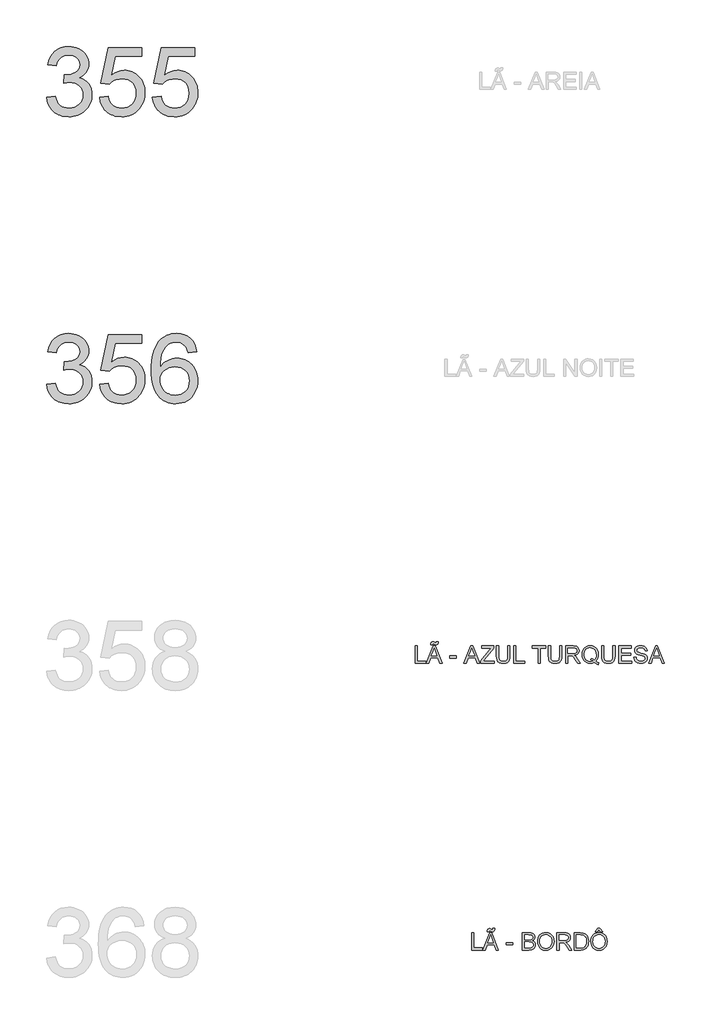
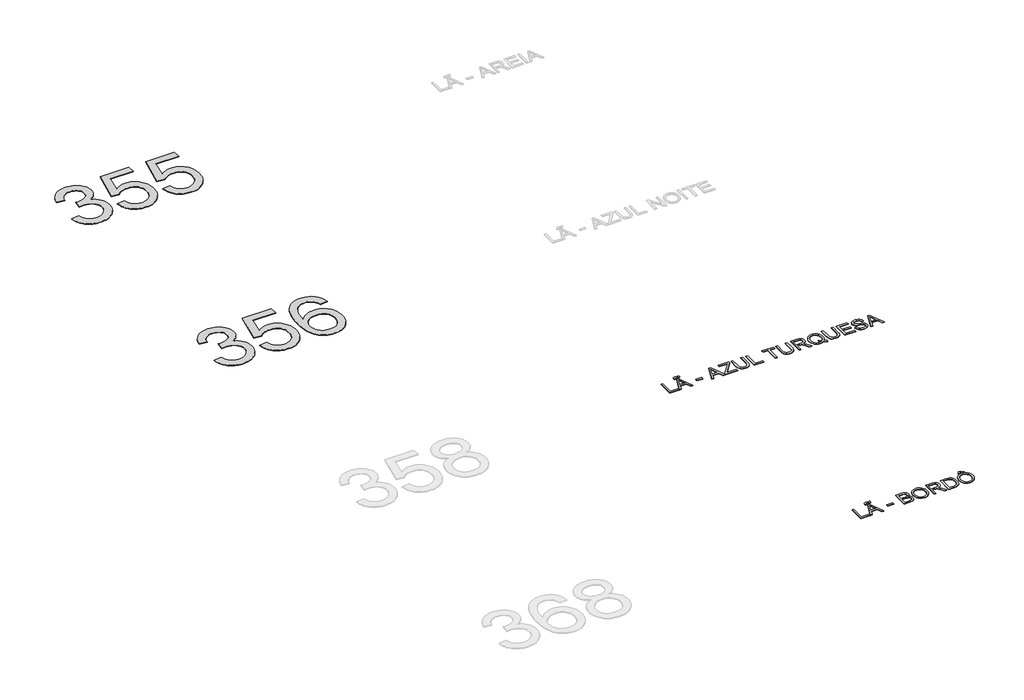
# One storey, part 26 of 67: 4 proxies.
"""IFC4 building model written with IfcOpenShell, lengths in millimetres."""

from ifc_helpers import new_model, si_unit, origin, origin_with_axes, place, context, project, spatial, polyline, outline, extrude, element, save

model = new_model("IFC4")

# Units and contexts
model_context = context("Model", 3, world=origin())
ifc_project = project(units=[si_unit("LENGTHUNIT", "METRE", prefix="MILLI")], contexts=[model_context])

# Site, building, storey
site = spatial("IfcSite", under=ifc_project)
building = spatial("IfcBuilding", under=site)
storey = spatial("IfcBuildingStorey", under=building, Name="Marelli - Linha COLAB - Planta Baixa", Elevation=0.0)

# Proxies
placement = place(None, origin())
element("IfcBuildingElementProxy", 1, Name="1200mm Arial", ObjectType="1200mm Arial", at=placement, inside=storey, context=model_context, shape_type="SweptSolid", body=[
    extrude(outline(polyline([(-181.1313792, -112668.6139517), (-30.446914, -112649.7783935), (-15.5384961, -112700.9691731), (3.287865, -112744.4712191), (26.0321693, -112780.2845313), (52.6944169, -112808.4091098), (83.8816131, -112829.6542951), (120.200763, -112844.8294274), (161.6518669, -112853.9345067), (208.2349245, -112856.9695332), (262.8286126, -112852.7940725), (311.5361887, -112840.2676906), (354.357653, -112819.3903874), (391.2930053, -112790.1621629), (421.0362646, -112754.7719149), (442.2814498, -112715.4085415), (455.028561, -112672.0720424), (459.277598, -112624.7624178), (455.0653492, -112579.7060705), (442.4286026, -112538.7148192), (421.3673584, -112501.7886639), (391.8816165, -112468.9276047), (355.9027574, -112441.9526574), (315.3621615, -112422.6848379), (270.2598289, -112411.1241462), (220.5957595, -112407.2705823), (172.9918294, -112411.3908606), (114.9400505, -112423.7516957), (131.7154695, -112273.0672304), (155.8485284, -112274.833064), (202.1832657, -112272.1291314), (246.12677, -112264.0173334), (287.6790413, -112250.49767), (326.8400797, -112231.5701414), (360.0598239, -112207.0324123), (383.7882126, -112176.6821477), (398.0252458, -112140.5193476), (402.7709235, -112098.5440119), (399.3312269, -112064.4689421), (389.0121369, -112033.465687), (371.8136536, -112005.5342465), (347.7357771, -111980.6746207), (318.231641, -111960.266367), (284.7543795, -111945.6890429), (247.3039924, -111936.9426485), (205.8804797, -111934.0271837), (164.5673317, -111936.9702397), (126.8594272, -111945.7994075), (92.7567662, -111960.5146873), (62.2593488, -111981.1160791), (36.121333, -112007.6035827), (15.096877, -112039.9771983), (-0.8140193, -112078.2369258), (-11.6113558, -112122.3827652), (-162.2958211, -112103.5472071), (-144.4351502, -112031.6078829), (-117.9292524, -111968.2402092), (-82.7781278, -111913.4441861), (-38.9817763, -111867.2198134), (12.0802447, -111830.5235844), (69.0283775, -111804.3119922), (131.8626223, -111788.5850369), (200.582979, -111783.3427185), (248.9134761, -111785.9270895), (295.3125927, -111793.6802025), (339.7803289, -111806.6020576), (382.3166846, -111824.6926547), (421.4409348, -111847.2622151), (455.6723544, -111873.6209601), (485.0109436, -111903.7688896), (509.4567021, -111937.7060036), (528.7061275, -111974.0803359), (542.4557171, -112011.5399201), (550.7054709, -112050.0847561), (553.4553888, -112089.7148441), (550.8434266, -112126.9812902), (543.0075401, -112162.5554791), (529.9477293, -112196.4374109), (511.6639941, -112228.6270854), (488.2666992, -112258.3703447), (459.8662092, -112284.9130307), (426.462524, -112308.2551433), (388.0556437, -112328.3966825), (438.2715361, -112344.1052437), (482.3805873, -112366.5092572), (520.3827974, -112395.608723), (552.2781664, -112431.4036412), (577.5148712, -112473.0110948), (595.541089, -112519.5481672), (606.3568197, -112571.0148583), (609.9620632, -112627.4111682), (608.1594414, -112666.3882656), (602.7515761, -112703.8570468), (593.7384672, -112739.8175118), (581.1201148, -112774.2696607), (564.8965188, -112807.2134933), (545.0676793, -112838.6490098), (521.6335962, -112868.5762101), (494.5942695, -112896.9950943), (464.8004265, -112922.9307749), (433.102794, -112945.4083648), (399.5013723, -112964.427864), (363.9961612, -112979.9892724), (326.5871609, -112992.09259), (287.2743712, -113000.7378169), (246.0577921, -113005.924953), (202.9374238, -113007.6539984), (126.7122744, -113001.7494924), (91.1380854, -112994.3688599), (57.2561537, -112984.0359743), (25.0664791, -112970.7508358), (-5.4309383, -112954.5134442), (-34.2360985, -112935.3237996), (-61.3490016, -112913.1819021), (-86.2040289, -112888.6947568), (-108.2355619, -112862.469369), (-127.4436005, -112834.5057389), (-143.8281449, -112804.8038663), (-157.3891949, -112773.3637513), (-168.1267507, -112740.1853938), (-181.1313792, -112668.6139517)])), origin_with_axes(), (0.0, 0.0, 1.0), 10.0),
    extrude(outline(polyline([(741.8109703, -112668.6139517), (892.4954355, -112649.7783935), (903.7526246, -112698.2192552), (920.1601616, -112740.2405761), (941.7180465, -112775.8423562), (968.4262793, -112805.0245955), (1000.2296778, -112827.7505057), (1037.0730596, -112843.9832988), (1078.9564248, -112853.7229746), (1125.8797733, -112856.9695332), (1183.2693645, -112852.4537817), (1233.889927, -112838.9065272), (1277.7414609, -112816.3277698), (1314.823966, -112784.7175093), (1344.3097079, -112745.6392444), (1365.3709521, -112700.6564734), (1378.0076987, -112649.7691965), (1382.2199475, -112592.9774135), (1378.2744131, -112539.3034304), (1366.4378099, -112491.5891356), (1346.7101379, -112449.8345291), (1319.0913971, -112414.039611), (1283.489617, -112385.3264213), (1239.8128272, -112364.817), (1188.0610275, -112352.5113473), (1128.234218, -112348.4094631), (1089.9468994, -112350.0465379), (1055.1360656, -112354.9577626), (1023.8017166, -112363.143137), (995.9438526, -112374.6026611), (948.6710162, -112404.6954083), (911.3309937, -112442.5872538), (760.6465284, -112423.7516957), (892.4954355, -111802.1782766), (1476.3977383, -111802.1782766), (1476.3977383, -111952.8627418), (1014.3379523, -111952.8627418), (949.8850268, -112284.8394543), (1003.0623692, -112246.7268796), (1057.5272986, -112219.503612), (1113.2798149, -112203.1696514), (1170.3199183, -112197.7249978), (1207.7588091, -112199.4126565), (1243.7031793, -112204.4756324), (1278.1530289, -112212.9139257), (1311.1083578, -112224.7275363), (1342.5691662, -112239.9164642), (1372.535454, -112258.4807093), (1401.0072211, -112280.4202718), (1427.9844677, -112305.7351516), (1452.5750798, -112333.7033803), (1473.8869436, -112363.6029895), (1491.9200592, -112395.4339791), (1506.6744265, -112429.1963492), (1518.1500455, -112464.8900998), (1526.3469162, -112502.5152308), (1531.2650386, -112542.0717424), (1532.9044127, -112583.5596344), (1526.9999067, -112661.6241938), (1519.6192742, -112698.6147284), (1509.2863886, -112734.2440996), (1496.0012501, -112768.5123075), (1479.7638585, -112801.4193519), (1460.5742139, -112832.965233), (1438.4323164, -112863.1499507), (1408.4315397, -112897.0180869), (1375.8188008, -112926.3704716), (1340.5940997, -112951.2071048), (1302.7574365, -112971.5279865), (1262.3088112, -112987.3331167), (1219.2482236, -112998.6224954), (1173.5756739, -113005.3961227), (1125.2911621, -113007.6539984), (1047.5301053, -113001.8506599), (1011.470772, -112994.5964869), (977.2922354, -112984.4406445), (944.9944955, -112971.383133), (914.5775523, -112955.4239522), (886.0414058, -112936.5631021), (859.386056, -112914.8005828), (835.0483627, -112890.6422321), (813.4651859, -112864.5938875), (794.6365255, -112836.6555493), (778.5623816, -112806.8272173), (765.2427541, -112775.1088915), (754.6776431, -112741.500572), (741.8109703, -112668.6139517)])), origin_with_axes(), (0.0, 0.0, 1.0), 10.0),
    extrude(outline(polyline([(1664.7533198, -112668.6139517), (1815.437785, -112649.7783935), (1826.6949741, -112698.2192552), (1843.1025111, -112740.2405761), (1864.660396, -112775.8423562), (1891.3686288, -112805.0245955), (1923.1720273, -112827.7505057), (1960.0154091, -112843.9832988), (2001.8987743, -112853.7229746), (2048.8221228, -112856.9695332), (2106.211714, -112852.4537817), (2156.8322765, -112838.9065272), (2200.6838104, -112816.3277698), (2237.7663155, -112784.7175093), (2267.2520574, -112745.6392444), (2288.3133016, -112700.6564734), (2300.9500482, -112649.7691965), (2305.162297, -112592.9774135), (2301.2167626, -112539.3034304), (2289.3801594, -112491.5891356), (2269.6524874, -112449.8345291), (2242.0337466, -112414.039611), (2206.4319665, -112385.3264213), (2162.7551767, -112364.817), (2111.003377, -112352.5113473), (2051.1765675, -112348.4094631), (2012.8892489, -112350.0465379), (1978.0784151, -112354.9577626), (1946.7440661, -112363.143137), (1918.8862021, -112374.6026611), (1871.6133657, -112404.6954083), (1834.2733432, -112442.5872538), (1683.5888779, -112423.7516957), (1815.437785, -111802.1782766), (2399.3400878, -111802.1782766), (2399.3400878, -111952.8627418), (1937.2803018, -111952.8627418), (1872.8273763, -112284.8394543), (1926.0047187, -112246.7268796), (1980.4696481, -112219.503612), (2036.2221644, -112203.1696514), (2093.2622678, -112197.7249978), (2130.7011586, -112199.4126565), (2166.6455288, -112204.4756324), (2201.0953784, -112212.9139257), (2234.0507073, -112224.7275363), (2265.5115157, -112239.9164642), (2295.4778035, -112258.4807093), (2323.9495706, -112280.4202718), (2350.9268172, -112305.7351516), (2375.5174293, -112333.7033803), (2396.8292931, -112363.6029895), (2414.8624087, -112395.4339791), (2429.616776, -112429.1963492), (2441.092395, -112464.8900998), (2449.2892657, -112502.5152308), (2454.2073881, -112542.0717424), (2455.8467622, -112583.5596344), (2449.9422562, -112661.6241938), (2442.5616237, -112698.6147284), (2432.2287381, -112734.2440996), (2418.9435996, -112768.5123075), (2402.706208, -112801.4193519), (2383.5165634, -112832.965233), (2361.3746659, -112863.1499507), (2331.3738892, -112897.0180869), (2298.7611503, -112926.3704716), (2263.5364492, -112951.2071048), (2225.699786, -112971.5279865), (2185.2511607, -112987.3331167), (2142.1905731, -112998.6224954), (2096.5180234, -113005.3961227), (2048.2335116, -113007.6539984), (1970.4724548, -113001.8506599), (1934.4131215, -112994.5964869), (1900.2345849, -112984.4406445), (1867.936845, -112971.383133), (1837.5199018, -112955.4239522), (1808.9837553, -112936.5631021), (1782.3284055, -112914.8005828), (1757.9907122, -112890.6422321), (1736.4075354, -112864.5938875), (1717.578875, -112836.6555493), (1701.5047311, -112806.8272173), (1688.1851036, -112775.1088915), (1677.6199926, -112741.500572), (1664.7533198, -112668.6139517)])), origin_with_axes(), (0.0, 0.0, 1.0), 10.0),
])
element("IfcBuildingElementProxy", 2, Name="1200mm Arial", ObjectType="1200mm Arial", at=placement, inside=storey, context=model_context, shape_type="SweptSolid", body=[
    extrude(outline(polyline([(-181.1313792, -117668.6139517), (-30.446914, -117649.7783935), (-15.5384961, -117700.9691731), (3.287865, -117744.4712191), (26.0321693, -117780.2845313), (52.6944169, -117808.4091098), (83.8816131, -117829.6542951), (120.200763, -117844.8294274), (161.6518669, -117853.9345067), (208.2349245, -117856.9695332), (262.8286126, -117852.7940725), (311.5361887, -117840.2676906), (354.357653, -117819.3903874), (391.2930053, -117790.1621629), (421.0362646, -117754.7719149), (442.2814498, -117715.4085415), (455.028561, -117672.0720424), (459.277598, -117624.7624178), (455.0653492, -117579.7060705), (442.4286026, -117538.7148192), (421.3673584, -117501.7886639), (391.8816165, -117468.9276047), (355.9027574, -117441.9526574), (315.3621615, -117422.6848379), (270.2598289, -117411.1241462), (220.5957595, -117407.2705823), (172.9918294, -117411.3908606), (114.9400505, -117423.7516957), (131.7154695, -117273.0672304), (155.8485284, -117274.833064), (202.1832657, -117272.1291314), (246.12677, -117264.0173334), (287.6790413, -117250.49767), (326.8400797, -117231.5701414), (360.0598239, -117207.0324123), (383.7882126, -117176.6821477), (398.0252458, -117140.5193476), (402.7709235, -117098.5440119), (399.3312269, -117064.4689421), (389.0121369, -117033.465687), (371.8136536, -117005.5342465), (347.7357771, -116980.6746207), (318.231641, -116960.266367), (284.7543795, -116945.6890429), (247.3039924, -116936.9426485), (205.8804797, -116934.0271837), (164.5673317, -116936.9702397), (126.8594272, -116945.7994075), (92.7567662, -116960.5146873), (62.2593488, -116981.1160791), (36.121333, -117007.6035827), (15.096877, -117039.9771983), (-0.8140193, -117078.2369258), (-11.6113558, -117122.3827652), (-162.2958211, -117103.5472071), (-144.4351502, -117031.6078829), (-117.9292524, -116968.2402092), (-82.7781278, -116913.4441861), (-38.9817763, -116867.2198134), (12.0802447, -116830.5235844), (69.0283775, -116804.3119922), (131.8626223, -116788.5850369), (200.582979, -116783.3427185), (248.9134761, -116785.9270895), (295.3125927, -116793.6802025), (339.7803289, -116806.6020576), (382.3166846, -116824.6926547), (421.4409348, -116847.2622151), (455.6723544, -116873.6209601), (485.0109436, -116903.7688896), (509.4567021, -116937.7060036), (528.7061275, -116974.0803359), (542.4557171, -117011.5399201), (550.7054709, -117050.0847561), (553.4553888, -117089.7148441), (550.8434266, -117126.9812902), (543.0075401, -117162.5554791), (529.9477293, -117196.4374109), (511.6639941, -117228.6270854), (488.2666992, -117258.3703447), (459.8662092, -117284.9130307), (426.462524, -117308.2551433), (388.0556437, -117328.3966825), (438.2715361, -117344.1052437), (482.3805873, -117366.5092572), (520.3827974, -117395.608723), (552.2781664, -117431.4036412), (577.5148712, -117473.0110948), (595.541089, -117519.5481672), (606.3568197, -117571.0148583), (609.9620632, -117627.4111682), (608.1594414, -117666.3882656), (602.7515761, -117703.8570468), (593.7384672, -117739.8175118), (581.1201148, -117774.2696607), (564.8965188, -117807.2134933), (545.0676793, -117838.6490098), (521.6335962, -117868.5762101), (494.5942695, -117896.9950943), (464.8004265, -117922.9307749), (433.102794, -117945.4083648), (399.5013723, -117964.427864), (363.9961612, -117979.9892724), (326.5871609, -117992.09259), (287.2743712, -118000.7378169), (246.0577921, -118005.924953), (202.9374238, -118007.6539984), (126.7122744, -118001.7494924), (91.1380854, -117994.3688599), (57.2561537, -117984.0359743), (25.0664791, -117970.7508358), (-5.4309383, -117954.5134442), (-34.2360985, -117935.3237996), (-61.3490016, -117913.1819021), (-86.2040289, -117888.6947568), (-108.2355619, -117862.469369), (-127.4436005, -117834.5057389), (-143.8281449, -117804.8038663), (-157.3891949, -117773.3637513), (-168.1267507, -117740.1853938), (-181.1313792, -117668.6139517)])), origin_with_axes(), (0.0, 0.0, 1.0), 10.0),
    extrude(outline(polyline([(741.8109703, -117668.6139517), (892.4954355, -117649.7783935), (903.7526246, -117698.2192552), (920.1601616, -117740.2405761), (941.7180465, -117775.8423562), (968.4262793, -117805.0245955), (1000.2296778, -117827.7505057), (1037.0730596, -117843.9832988), (1078.9564248, -117853.7229746), (1125.8797733, -117856.9695332), (1183.2693645, -117852.4537817), (1233.889927, -117838.9065272), (1277.7414609, -117816.3277698), (1314.823966, -117784.7175093), (1344.3097079, -117745.6392444), (1365.3709521, -117700.6564734), (1378.0076987, -117649.7691965), (1382.2199475, -117592.9774135), (1378.2744131, -117539.3034304), (1366.4378099, -117491.5891356), (1346.7101379, -117449.8345291), (1319.0913971, -117414.039611), (1283.489617, -117385.3264213), (1239.8128272, -117364.817), (1188.0610275, -117352.5113473), (1128.234218, -117348.4094631), (1089.9468994, -117350.0465379), (1055.1360656, -117354.9577626), (1023.8017166, -117363.143137), (995.9438526, -117374.6026611), (948.6710162, -117404.6954083), (911.3309937, -117442.5872538), (760.6465284, -117423.7516957), (892.4954355, -116802.1782766), (1476.3977383, -116802.1782766), (1476.3977383, -116952.8627418), (1014.3379523, -116952.8627418), (949.8850268, -117284.8394543), (1003.0623692, -117246.7268796), (1057.5272986, -117219.503612), (1113.2798149, -117203.1696514), (1170.3199183, -117197.7249978), (1207.7588091, -117199.4126565), (1243.7031793, -117204.4756324), (1278.1530289, -117212.9139257), (1311.1083578, -117224.7275363), (1342.5691662, -117239.9164642), (1372.535454, -117258.4807093), (1401.0072211, -117280.4202718), (1427.9844677, -117305.7351516), (1452.5750798, -117333.7033803), (1473.8869436, -117363.6029895), (1491.9200592, -117395.4339791), (1506.6744265, -117429.1963492), (1518.1500455, -117464.8900998), (1526.3469162, -117502.5152308), (1531.2650386, -117542.0717424), (1532.9044127, -117583.5596344), (1526.9999067, -117661.6241938), (1519.6192742, -117698.6147284), (1509.2863886, -117734.2440996), (1496.0012501, -117768.5123075), (1479.7638585, -117801.4193519), (1460.5742139, -117832.965233), (1438.4323164, -117863.1499507), (1408.4315397, -117897.0180869), (1375.8188008, -117926.3704716), (1340.5940997, -117951.2071048), (1302.7574365, -117971.5279865), (1262.3088112, -117987.3331167), (1219.2482236, -117998.6224954), (1173.5756739, -118005.3961227), (1125.2911621, -118007.6539984), (1047.5301053, -118001.8506599), (1011.470772, -117994.5964869), (977.2922354, -117984.4406445), (944.9944955, -117971.383133), (914.5775523, -117955.4239522), (886.0414058, -117936.5631021), (859.386056, -117914.8005828), (835.0483627, -117890.6422321), (813.4651859, -117864.5938875), (794.6365255, -117836.6555493), (778.5623816, -117806.8272173), (765.2427541, -117775.1088915), (754.6776431, -117741.500572), (741.8109703, -117668.6139517)])), origin_with_axes(), (0.0, 0.0, 1.0), 10.0),
    extrude(outline(polyline([(2437.0112041, -117103.5472071), (2286.3267388, -117122.3827652), (2275.2534908, -117082.0812927), (2262.0465272, -117047.7027202), (2246.705848, -117019.2470479), (2229.2314532, -116996.7142757), (2196.8394435, -116969.2886729), (2160.8789785, -116949.6989567), (2121.3500581, -116937.9451269), (2078.2526824, -116934.0271837), (2042.7152816, -116936.3080521), (2008.2079505, -116943.1506572), (1974.7306889, -116954.554999), (1942.283497, -116970.5210776), (1912.6781934, -116996.6315022), (1885.6664579, -117028.1681863), (1861.2482905, -117065.1311297), (1839.4236911, -117107.5203326), (1821.3514881, -117158.1316981), (1808.1905097, -117219.7611293), (1799.940756, -117292.4086263), (1796.6022269, -117376.0741891), (1825.3246136, -117338.2099347), (1857.0452387, -117305.5512106), (1891.764102, -117278.0980167), (1929.4812035, -117255.8503531), (1969.1848679, -117238.6610669), (2009.8634195, -117226.3830053), (2051.5168584, -117219.0161683), (2094.1451846, -117216.560556), (2131.0437487, -117218.2390176), (2166.5443612, -117223.2744024), (2200.6470222, -117231.6667104), (2233.3517315, -117243.4159416), (2264.6584893, -117258.5220961), (2294.5672955, -117276.9851737), (2323.0781502, -117298.8051745), (2350.1910532, -117323.9820986), (2374.95411, -117351.81697), (2396.4154259, -117381.6108131), (2414.5750009, -117413.3636278), (2429.432835, -117447.0754142), (2440.9889281, -117482.7461721), (2449.2432804, -117520.3759017), (2454.1958918, -117559.9646029), (2455.8467622, -117601.5122757), (2452.7381594, -117656.4462547), (2443.4123508, -117709.4120649), (2427.8693365, -117760.4097065), (2406.1091165, -117809.4391794), (2378.9042429, -117854.6702707), (2347.0272681, -117894.2727675), (2310.4781918, -117928.2466698), (2269.2570143, -117956.5919775), (2224.2466522, -117978.9316116), (2176.3300223, -117994.8884932), (2125.5071247, -118004.4626221), (2071.7779593, -118007.6539984), (2025.776615, -118005.5386769), (1981.9503731, -117999.1927125), (1940.2992334, -117988.6161052), (1900.8231961, -117973.8088549), (1863.5222611, -117954.7709616), (1828.3964283, -117931.5024254), (1795.4456978, -117904.0032463), (1764.6700697, -117872.2734242), (1736.8374975, -117835.6875598), (1712.7159349, -117793.6202536), (1692.305382, -117746.0715057), (1675.6058387, -117693.0413161), (1662.617305, -117634.5296848), (1653.3397809, -117570.5366117), (1647.7732665, -117501.062097), (1645.9177616, -117426.1061404), (1647.9779008, -117342.1784618), (1654.1583183, -117264.1828803), (1664.4590142, -117192.1193959), (1678.8799884, -117125.9880088), (1697.421241, -117065.7887188), (1720.0827719, -117011.521526), (1746.8645811, -116963.1864303), (1777.7666687, -116920.7834319), (1807.781241, -116888.5707647), (1840.2882138, -116860.6531198), (1875.2875871, -116837.0304971), (1912.7793609, -116817.7028968), (1952.7635353, -116802.6703188), (1995.2401102, -116791.9327631), (2040.2090855, -116785.4902296), (2087.6704615, -116783.3427185), (2157.0713998, -116788.6586133), (2219.8872505, -116804.6062978), (2276.1180135, -116831.1857719), (2325.7636887, -116868.3970358), (2367.481507, -116914.9892904), (2399.928699, -116969.7117372), (2423.1052647, -117032.5643761), (2437.0112041, -117103.5472071)]), holes=[polyline([(1796.6022269, -117599.157831), (1798.7819277, -117632.9202011), (1805.3210302, -117665.9284131), (1816.2195343, -117698.182467), (1831.47744, -117729.6823629), (1850.3497864, -117758.9473756), (1872.0916123, -117784.4967801), (1896.7029178, -117806.3305766), (1924.1837028, -117824.4487648), (1954.3592234, -117838.676601), (1987.0547358, -117848.8393411), (2022.2702398, -117854.9369852), (2060.0057354, -117856.9695332), (2112.3829345, -117852.7572843), (2159.4442387, -117840.1205378), (2201.1896481, -117819.0592936), (2237.6191627, -117789.5735517), (2267.1692839, -117752.8589286), (2288.2765134, -117710.1110407), (2300.9408511, -117661.3298882), (2305.162297, -117606.5154709), (2300.9960334, -117553.8439662), (2288.4972426, -117507.0769676), (2267.6659246, -117466.214475), (2238.5020795, -117431.2564884), (2201.9622003, -117403.2514715), (2159.0027803, -117383.247888), (2109.6238195, -117371.2457379), (2053.8253179, -117367.2450212), (2002.1470946, -117371.2457379), (1954.5339674, -117383.247888), (1910.9859362, -117403.2514715), (1871.5030011, -117431.2564884), (1838.7339124, -117465.7546225), (1815.3274204, -117505.2375576), (1801.2835253, -117549.7052938), (1796.6022269, -117599.157831)])]), origin_with_axes(), (0.0, 0.0, 1.0), 10.0),
])
element("IfcBuildingElementProxy", 3, Name="300mm Arial", ObjectType="300mm Arial", at=placement, inside=storey, context=model_context, shape_type="SweptSolid", body=[
    extrude(outline(polyline([(6242.8873613, -122530.5663201), (6242.8873613, -122229.1973896), (6280.5584776, -122229.1973896), (6280.5584776, -122492.8952038), (6431.2429428, -122492.8952038), (6431.2429428, -122530.5663201), (6242.8873613, -122530.5663201)])), origin_with_axes(), (0.0, 0.0, 1.0), 10.0),
    extrude(outline(polyline([(6516.0029545, -122210.3618315), (6518.85404, -122187.2036599), (6527.701602, -122169.2326244), (6541.0373243, -122157.6995239), (6557.6471964, -122153.855157), (6571.5531358, -122156.8901835), (6587.81352, -122165.9952628), (6603.0438346, -122172.6907152), (6611.0268739, -122168.9015306), (6614.8896348, -122153.855157), (6647.8518616, -122153.855157), (6644.5685148, -122178.5768271), (6635.8956968, -122196.2351629), (6622.9922358, -122206.8301643), (6607.0169601, -122210.3618315), (6593.0190502, -122207.4923519), (6577.2185185, -122198.8839132), (6561.3260163, -122191.5262733), (6552.3496956, -122196.3087393), (6548.9651813, -122210.3618315), (6516.0029545, -122210.3618315)])), origin_with_axes(), (0.0, 0.0, 1.0), 10.0),
    extrude(outline(polyline([(6438.5270063, -122530.5663201), (6558.8244188, -122229.1973896), (6590.9037287, -122229.1973896), (6711.2011412, -122530.5663201), (6671.3963093, -122530.5663201), (6636.8889781, -122436.3885293), (6512.765593, -122436.3885293), (6478.3318382, -122530.5663201), (6438.5270063, -122530.5663201)]), holes=[polyline([(6526.597956, -122398.717413), (6623.1301915, -122398.717413), (6595.9805003, -122324.6259792), (6574.8640738, -122266.8685059), (6556.102092, -122318.1512561), (6526.597956, -122398.717413)])]), origin_with_axes(), (0.0, 0.0, 1.0), 10.0),
    extrude(outline(polyline([(6845.6252222, -122441.0974188), (6845.6252222, -122403.4263025), (6963.3474607, -122403.4263025), (6963.3474607, -122441.0974188), (6845.6252222, -122441.0974188)])), origin_with_axes(), (0.0, 0.0, 1.0), 10.0),
    extrude(outline(polyline([(7093.0626522, -122530.5663201), (7213.3600646, -122229.1973896), (7245.4393746, -122229.1973896), (7365.736787, -122530.5663201), (7325.9319551, -122530.5663201), (7291.424624, -122436.3885293), (7167.3012388, -122436.3885293), (7132.867484, -122530.5663201), (7093.0626522, -122530.5663201)]), holes=[polyline([(7181.1336018, -122398.717413), (7277.6658373, -122398.717413), (7250.5161461, -122324.6259792), (7229.3997196, -122266.8685059), (7210.6377378, -122318.1512561), (7181.1336018, -122398.717413)])]), origin_with_axes(), (0.0, 0.0, 1.0), 10.0),
    extrude(outline(polyline([(7382.4386296, -122530.5663201), (7382.4386296, -122491.4972522), (7536.5811855, -122302.7737887), (7565.8645924, -122266.8685059), (7401.2741877, -122266.8685059), (7401.2741877, -122229.1973896), (7613.1742169, -122229.1973896), (7613.1742169, -122266.8685059), (7444.4635339, -122473.397458), (7428.5710318, -122492.8952038), (7617.8831065, -122492.8952038), (7617.8831065, -122530.5663201), (7382.4386296, -122530.5663201)])), origin_with_axes(), (0.0, 0.0, 1.0), 10.0),
    extrude(outline(polyline([(7858.0364729, -122229.1973896), (7895.7075892, -122229.1973896), (7895.7075892, -122403.0584205), (7893.1508094, -122443.7737604), (7885.4804698, -122475.1265034), (7871.1514661, -122499.3147446), (7848.6186939, -122518.5365788), (7817.8269709, -122531.0905519), (7778.7211148, -122535.2752096), (7740.4705843, -122531.6331779), (7709.8903935, -122520.7070826), (7686.9713452, -122502.8740029), (7671.7042424, -122478.5110178), (7663.1233948, -122445.8338995), (7660.2631123, -122403.0584205), (7660.2631123, -122229.1973896), (7697.9342286, -122229.1973896), (7697.9342286, -122401.7340454), (7699.7920327, -122435.588386), (7705.3654449, -122459.1604248), (7715.4638057, -122475.4851883), (7730.8964554, -122487.597703), (7751.0196005, -122495.1024957), (7775.1894476, -122497.6040933), (7813.5043574, -122492.6560805), (7827.8471567, -122486.4710644), (7838.9801856, -122477.812042), (7847.3173113, -122465.6351479), (7853.2724011, -122448.8965171), (7858.0364729, -122401.7340454), (7858.0364729, -122229.1973896)])), origin_with_axes(), (0.0, 0.0, 1.0), 10.0),
    extrude(outline(polyline([(7961.6320428, -122530.5663201), (7961.6320428, -122229.1973896), (7999.3031591, -122229.1973896), (7999.3031591, -122492.8952038), (8149.9876243, -122492.8952038), (8149.9876243, -122530.5663201), (7961.6320428, -122530.5663201)])), origin_with_axes(), (0.0, 0.0, 1.0), 10.0),
    extrude(outline(polyline([(8385.4321012, -122530.5663201), (8385.4321012, -122266.8685059), (8286.5454209, -122266.8685059), (8286.5454209, -122229.1973896), (8521.9898978, -122229.1973896), (8521.9898978, -122266.8685059), (8423.1032175, -122266.8685059), (8423.1032175, -122530.5663201), (8385.4321012, -122530.5663201)])), origin_with_axes(), (0.0, 0.0, 1.0), 10.0),
    extrude(outline(polyline([(8762.1432643, -122229.1973896), (8799.8143806, -122229.1973896), (8799.8143806, -122403.0584205), (8797.2576007, -122443.7737604), (8789.5872611, -122475.1265034), (8775.2582574, -122499.3147446), (8752.7254852, -122518.5365788), (8721.9337622, -122531.0905519), (8682.8279061, -122535.2752096), (8644.5773757, -122531.6331779), (8613.9971848, -122520.7070826), (8591.0781365, -122502.8740029), (8575.8110337, -122478.5110178), (8567.2301862, -122445.8338995), (8564.3699037, -122403.0584205), (8564.3699037, -122229.1973896), (8602.04102, -122229.1973896), (8602.04102, -122401.7340454), (8603.898824, -122435.588386), (8609.4722363, -122459.1604248), (8619.570597, -122475.4851883), (8635.0032467, -122487.597703), (8655.1263919, -122495.1024957), (8679.296239, -122497.6040933), (8717.6111488, -122492.6560805), (8731.953948, -122486.4710644), (8743.0869769, -122477.812042), (8751.4241026, -122465.6351479), (8757.3791924, -122448.8965171), (8762.1432643, -122401.7340454), (8762.1432643, -122229.1973896)])), origin_with_axes(), (0.0, 0.0, 1.0), 10.0),
    extrude(outline(polyline([(8865.7388341, -122530.5663201), (8865.7388341, -122229.1973896), (8995.6011784, -122229.1973896), (9030.5039827, -122231.2299376), (9055.8970374, -122237.3275817), (9074.4566841, -122248.5847708), (9088.8592642, -122266.0959537), (9098.1022993, -122287.8101885), (9101.183311, -122311.6765329), (9096.0789483, -122341.3646099), (9080.7658603, -122365.9759154), (9069.1660811, -122376.0052983), (9054.7841944, -122384.0205273), (9017.6740981, -122394.0085235), (9039.0848302, -122410.1217548), (9069.6190358, -122448.8965171), (9119.8717164, -122530.5663201), (9076.093759, -122530.5663201), (9036.8775383, -122468.0999573), (9008.5506246, -122426.750021), (8988.6482087, -122407.2154871), (8970.7323555, -122400.0417882), (8948.880165, -122398.717413), (8903.4099504, -122398.717413), (8903.4099504, -122530.5663201), (8865.7388341, -122530.5663201)]), holes=[polyline([(8903.4099504, -122361.0462967), (8987.7285037, -122361.0462967), (9011.944336, -122359.7127245), (9030.733909, -122355.7120078), (9044.8789717, -122348.7774322), (9055.1612734, -122338.6422832), (9061.4244644, -122326.3826157), (9063.5121947, -122313.0744845), (9059.5298721, -122294.6987789), (9047.5829043, -122279.8915286), (9027.0274979, -122270.1242616), (8997.2198592, -122266.8685059), (8903.4099504, -122266.8685059), (8903.4099504, -122361.0462967)])]), origin_with_axes(), (0.0, 0.0, 1.0), 10.0),
    extrude(outline(polyline([(9393.5023444, -122494.4403081), (9417.8377384, -122513.036743), (9440.2233578, -122525.8574305), (9430.0698147, -122553.4485802), (9399.0021802, -122539.0460001), (9368.0449103, -122518.205485), (9333.1880913, -122531.0077785), (9294.8363933, -122535.2752096), (9256.3007543, -122530.3547879), (9221.4807235, -122515.5935229), (9192.3168783, -122491.9203165), (9170.7497963, -122460.2640708), (9157.423271, -122422.3630282), (9152.9810959, -122379.9554312), (9157.414074, -122337.511046), (9170.7130081, -122299.0581805), (9192.1973166, -122266.9512794), (9221.1864179, -122243.5447874), (9255.87769, -122229.2525719), (9294.4685113, -122224.4885001), (9333.3628352, -122229.3629365), (9368.2288513, -122243.9862458), (9397.1719673, -122267.3835407), (9418.2975909, -122298.5799339), (9431.2102489, -122335.9199564), (9435.5144682, -122377.7481393), (9432.9025061, -122412.5313819), (9425.0666196, -122443.5990164), (9411.9516265, -122470.9142546), (9393.5023444, -122494.4403081)]), holes=[polyline([(9305.2106656, -122444.3347804), (9336.8853053, -122456.3093393), (9362.453104, -122472.9559996), (9377.9363375, -122455.4816049), (9388.99579, -122434.1076609), (9395.6314614, -122408.8341679), (9397.8433519, -122379.6611256), (9394.716355, -122346.5057608), (9385.3353641, -122317.8201623), (9369.9303056, -122294.3308969), (9348.7311056, -122276.7645316), (9323.172504, -122265.8108452), (9294.6892405, -122262.1596164), (9273.204932, -122264.0059242), (9253.6336098, -122269.5448474), (9235.9752741, -122278.7763863), (9220.2299247, -122291.7005406), (9207.2896755, -122308.2897193), (9198.0466404, -122328.5163313), (9192.5008193, -122352.3803764), (9190.6522123, -122379.8818548), (9192.4801259, -122406.6659634), (9197.9638669, -122430.1437324), (9207.1034352, -122450.3151621), (9219.8988309, -122467.1802523), (9235.5361149, -122480.4906827), (9253.2013485, -122489.9981331), (9272.8945315, -122495.7026032), (9294.6156641, -122497.6040933), (9315.5297555, -122495.6727128), (9335.15626, -122489.8785714), (9315.8608493, -122479.853787), (9295.4985809, -122473.1767288), (9305.2106656, -122444.3347804)])]), origin_with_axes(), (0.0, 0.0, 1.0), 10.0),
    extrude(outline(polyline([(9689.7945033, -122229.1973896), (9727.4656196, -122229.1973896), (9727.4656196, -122403.0584205), (9724.9088398, -122443.7737604), (9717.2385002, -122475.1265034), (9702.9094964, -122499.3147446), (9680.3767242, -122518.5365788), (9649.5850012, -122531.0905519), (9610.4791452, -122535.2752096), (9572.2286147, -122531.6331779), (9541.6484239, -122520.7070826), (9518.7293756, -122502.8740029), (9503.4622728, -122478.5110178), (9494.8814252, -122445.8338995), (9492.0211427, -122403.0584205), (9492.0211427, -122229.1973896), (9529.692259, -122229.1973896), (9529.692259, -122401.7340454), (9531.5500631, -122435.588386), (9537.1234753, -122459.1604248), (9547.2218361, -122475.4851883), (9562.6544858, -122487.597703), (9582.7776309, -122495.1024957), (9606.947478, -122497.6040933), (9645.2623878, -122492.6560805), (9659.6051871, -122486.4710644), (9670.738216, -122477.812042), (9679.0753417, -122465.6351479), (9685.0304315, -122448.8965171), (9689.7945033, -122401.7340454), (9689.7945033, -122229.1973896)])), origin_with_axes(), (0.0, 0.0, 1.0), 10.0),
    extrude(outline(polyline([(9793.3900732, -122530.5663201), (9793.3900732, -122229.1973896), (10009.9989919, -122229.1973896), (10009.9989919, -122266.8685059), (9831.0611895, -122266.8685059), (9831.0611895, -122356.3374072), (10000.5812128, -122356.3374072), (10000.5812128, -122394.0085235), (9831.0611895, -122394.0085235), (9831.0611895, -122492.8952038), (10014.7078815, -122492.8952038), (10014.7078815, -122530.5663201), (9793.3900732, -122530.5663201)])), origin_with_axes(), (0.0, 0.0, 1.0), 10.0),
    extrude(outline(polyline([(10057.0878873, -122426.9707502), (10094.7590036, -122426.9707502), (10099.081617, -122447.8756446), (10106.8991094, -122464.6786547), (10119.0943976, -122478.0143771), (10136.5503983, -122488.517408), (10157.887554, -122495.332422), (10181.7263073, -122497.6040933), (10202.7139751, -122495.884245), (10221.0896807, -122490.7247), (10235.9797045, -122482.5577197), (10246.5103266, -122471.8155654), (10252.7735176, -122459.4823216), (10254.8612479, -122446.5420724), (10253.2977494, -122433.932917), (10248.607254, -122423.0344129), (10239.0791103, -122413.7361954), (10223.0026671, -122405.9279001), (10168.1514616, -122391.5437141), (10132.1450114, -122382.0247675), (10109.1064014, -122372.9656733), (10090.3536167, -122360.2921386), (10077.0638796, -122344.9330653), (10069.1452197, -122327.2195472), (10066.5056664, -122307.4826782), (10069.7706191, -122285.4189555), (10079.5654772, -122264.845155), (10095.6327233, -122247.4075484), (10117.7148401, -122234.7524077), (10144.2207379, -122227.054477), (10173.559327, -122224.4885001), (10205.3443314, -122227.1740386), (10233.1562102, -122235.2306543), (10256.0016821, -122248.4928003), (10272.8874657, -122266.7949295), (10283.5744376, -122288.9966079), (10287.8234747, -122313.9574013), (10250.1523584, -122313.9574013), (10243.2361769, -122291.4798114), (10228.8152026, -122275.2562154), (10206.2824304, -122265.4337661), (10175.0308549, -122262.1596164), (10143.0435155, -122265.3969779), (10121.0993545, -122275.1090626), (10108.4074256, -122289.4012781), (10104.1767827, -122306.3790322), (10107.1750209, -122320.8551887), (10116.1697357, -122332.4986539), (10137.433315, -122342.9097143), (10177.6796053, -122353.541504), (10219.2134826, -122363.6398648), (10244.3398228, -122372.4506385), (10265.8149343, -122386.1174547), (10280.7969286, -122402.9848441), (10289.5985053, -122422.868866), (10292.5323642, -122445.5855792), (10289.1570469, -122468.8081301), (10279.031095, -122490.6511236), (10262.5683757, -122509.4498935), (10240.1827563, -122523.539774), (10213.2629913, -122532.3413507), (10183.1978352, -122535.2752096), (10146.2900741, -122532.1114244), (10115.9122183, -122522.620069), (10091.7147801, -122506.764355), (10073.3482715, -122484.5074943), (10061.5576535, -122457.3945912), (10057.0878873, -122426.9707502)])), origin_with_axes(), (0.0, 0.0, 1.0), 10.0),
    extrude(outline(polyline([(10313.9430963, -122530.5663201), (10434.2405088, -122229.1973896), (10466.3198187, -122229.1973896), (10586.6172312, -122530.5663201), (10546.8123993, -122530.5663201), (10512.3050681, -122436.3885293), (10388.181683, -122436.3885293), (10353.7479282, -122530.5663201), (10313.9430963, -122530.5663201)]), holes=[polyline([(10402.014046, -122398.717413), (10498.5462815, -122398.717413), (10471.3965903, -122324.6259792), (10450.2801637, -122266.8685059), (10431.518182, -122318.1512561), (10402.014046, -122398.717413)])]), origin_with_axes(), (0.0, 0.0, 1.0), 10.0),
])
element("IfcBuildingElementProxy", 4, Name="300mm Arial", ObjectType="300mm Arial", at=placement, inside=storey, context=model_context, shape_type="SweptSolid", body=[
    extrude(outline(polyline([(7227.0452748, -127530.5663201), (7227.0452748, -127229.1973896), (7264.7163911, -127229.1973896), (7264.7163911, -127492.8952038), (7415.4008563, -127492.8952038), (7415.4008563, -127530.5663201), (7227.0452748, -127530.5663201)])), origin_with_axes(), (0.0, 0.0, 1.0), 10.0),
    extrude(outline(polyline([(7500.160868, -127210.3618315), (7503.0119535, -127187.2036599), (7511.8595155, -127169.2326244), (7525.1952378, -127157.6995239), (7541.8051099, -127153.855157), (7555.7110493, -127156.8901835), (7571.9714335, -127165.9952628), (7587.2017481, -127172.6907152), (7595.1847874, -127168.9015306), (7599.0475483, -127153.855157), (7632.0097751, -127153.855157), (7628.7264283, -127178.5768271), (7620.0536102, -127196.2351629), (7607.1501493, -127206.8301643), (7591.1748736, -127210.3618315), (7577.1769637, -127207.4923519), (7561.376432, -127198.8839132), (7545.4839298, -127191.5262733), (7536.5076091, -127196.3087393), (7533.1230948, -127210.3618315), (7500.160868, -127210.3618315)])), origin_with_axes(), (0.0, 0.0, 1.0), 10.0),
    extrude(outline(polyline([(7422.6849198, -127530.5663201), (7542.9823323, -127229.1973896), (7575.0616422, -127229.1973896), (7695.3590547, -127530.5663201), (7655.5542228, -127530.5663201), (7621.0468916, -127436.3885293), (7496.9235065, -127436.3885293), (7462.4897517, -127530.5663201), (7422.6849198, -127530.5663201)]), holes=[polyline([(7510.7558695, -127398.717413), (7607.288105, -127398.717413), (7580.1384138, -127324.6259792), (7559.0219872, -127266.8685059), (7540.2600055, -127318.1512561), (7510.7558695, -127398.717413)])]), origin_with_axes(), (0.0, 0.0, 1.0), 10.0),
    extrude(outline(polyline([(7829.7831357, -127441.0974188), (7829.7831357, -127403.4263025), (7947.5053742, -127403.4263025), (7947.5053742, -127441.0974188), (7829.7831357, -127441.0974188)])), origin_with_axes(), (0.0, 0.0, 1.0), 10.0),
    extrude(outline(polyline([(8112.316508, -127530.5663201), (8112.316508, -127229.1973896), (8227.3164197, -127229.1973896), (8258.9450742, -127231.4138786), (8283.6391531, -127238.0633457), (8302.5666818, -127249.3113377), (8316.8956855, -127265.3234015), (8325.9179914, -127284.1589597), (8328.9254268, -127303.8774346), (8326.396238, -127322.0232141), (8318.8086719, -127339.0837416), (8306.107546, -127354.0105535), (8288.2376781, -127365.7551862), (8309.5840309, -127376.9020107), (8325.3569714, -127393.8613707), (8335.0966472, -127415.5112261), (8338.3432058, -127440.7295368), (8336.1267168, -127461.7447958), (8329.4772497, -127481.2333445), (8319.5536329, -127497.8064284), (8307.5146946, -127510.0752929), (8292.7718237, -127518.9596431), (8274.7364089, -127525.3791839), (8226.4335029, -127530.5663201), (8112.316508, -127530.5663201)]), holes=[polyline([(8149.9876243, -127351.6285176), (8218.7815574, -127351.6285176), (8258.9542713, -127348.3911561), (8273.0165605, -127342.8085468), (8283.1241184, -127334.4484284), (8289.2217624, -127323.4395597), (8291.2543104, -127309.9106994), (8289.3597182, -127296.7773121), (8283.6759413, -127285.3361821), (8274.4604974, -127276.4058467), (8261.9709036, -127270.8048433), (8213.5576331, -127266.8685059), (8149.9876243, -127266.8685059), (8149.9876243, -127351.6285176)]), polyline([(8149.9876243, -127492.8952038), (8227.2428433, -127492.8952038), (8255.2018749, -127491.4236758), (8278.8566872, -127483.2199073), (8294.5284602, -127466.4812765), (8299.1361822, -127454.6538704), (8300.6720895, -127441.0974188), (8298.8694677, -127425.3520694), (8293.4616024, -127411.814012), (8284.0162322, -127401.2282076), (8270.1010957, -127394.3396173), (8250.3918178, -127390.5596298), (8223.5640233, -127389.2996339), (8149.9876243, -127389.2996339), (8149.9876243, -127492.8952038)])]), origin_with_axes(), (0.0, 0.0, 1.0), 10.0),
    extrude(outline(polyline([(8376.0143221, -127383.8549804), (8378.5251168, -127348.5061192), (8386.0575006, -127317.213157), (8398.6114737, -127289.9760937), (8416.187036, -127266.7949295), (8437.7311254, -127248.2858666), (8462.1906795, -127235.0651074), (8489.5656985, -127227.1326519), (8519.8561823, -127224.4885001), (8559.3851026, -127229.454907), (8594.8305329, -127244.3541278), (8624.2610925, -127268.1376988), (8645.745401, -127299.7571563), (8658.8787882, -127337.68579), (8663.256584, -127380.3968896), (8658.648862, -127423.6782064), (8644.825696, -127462.140269), (8622.5504412, -127493.8149088), (8592.5864527, -127516.733957), (8557.4445251, -127530.6398965), (8519.6354531, -127535.2752096), (8479.4995274, -127530.1524528), (8443.851762, -127514.7841825), (8414.4947788, -127490.5591531), (8393.2311995, -127458.8661192), (8380.3185415, -127422.3998164), (8376.0143221, -127383.8549804)]), holes=[polyline([(8413.6854384, -127384.2228624), (8415.5685344, -127409.1974513), (8421.2178223, -127431.3669401), (8430.6333021, -127450.7313286), (8443.8149738, -127467.2906169), (8459.838534, -127480.5527628), (8477.7796791, -127490.0257242), (8497.638409, -127495.709501), (8519.4147239, -127497.6040933), (8541.5635192, -127495.6911069), (8561.656774, -127489.9521478), (8579.694488, -127480.3872159), (8595.6766615, -127466.9963113), (8608.7617642, -127450.0875351), (8618.1082661, -127429.9689885), (8623.7161673, -127406.6406715), (8625.5854677, -127380.102584), (8622.3848943, -127346.7540812), (8612.7831742, -127317.9305269), (8597.0286278, -127294.358488), (8575.3695753, -127276.7645316), (8549.2407566, -127265.8108452), (8520.0769114, -127262.1596164), (8499.0570539, -127263.9185522), (8479.5547097, -127269.1953595), (8461.5698786, -127277.9900385), (8445.1025608, -127290.302589), (8431.3575698, -127306.7262208), (8421.539719, -127327.8541437), (8415.6490086, -127353.6863575), (8413.6854384, -127384.2228624)])]), origin_with_axes(), (0.0, 0.0, 1.0), 10.0),
    extrude(outline(polyline([(8715.0543689, -127530.5663201), (8715.0543689, -127229.1973896), (8844.9167132, -127229.1973896), (8879.8195175, -127231.2299376), (8905.2125722, -127237.3275817), (8923.7722189, -127248.5847708), (8938.174799, -127266.0959537), (8947.4178341, -127287.8101885), (8950.4988458, -127311.6765329), (8945.3944831, -127341.3646099), (8930.0813951, -127365.9759154), (8918.4816159, -127376.0052983), (8904.0997292, -127384.0205273), (8866.9896329, -127394.0085235), (8888.400365, -127410.1217548), (8918.9345706, -127448.8965171), (8969.1872512, -127530.5663201), (8925.4092937, -127530.5663201), (8886.193073, -127468.0999573), (8857.8661594, -127426.750021), (8837.9637435, -127407.2154871), (8820.0478903, -127400.0417882), (8798.1956998, -127398.717413), (8752.7254852, -127398.717413), (8752.7254852, -127530.5663201), (8715.0543689, -127530.5663201)]), holes=[polyline([(8752.7254852, -127361.0462967), (8837.0440385, -127361.0462967), (8861.2598708, -127359.7127245), (8880.0494437, -127355.7120078), (8894.1945064, -127348.7774322), (8904.4768082, -127338.6422832), (8910.7399992, -127326.3826157), (8912.8277295, -127313.0744845), (8908.8454069, -127294.6987789), (8896.8984391, -127279.8915286), (8876.3430326, -127270.1242616), (8846.535394, -127266.8685059), (8752.7254852, -127266.8685059), (8752.7254852, -127361.0462967)])]), origin_with_axes(), (0.0, 0.0, 1.0), 10.0),
    extrude(outline(polyline([(9016.4232993, -127530.5663201), (9016.4232993, -127229.1973896), (9120.3867512, -127229.1973896), (9174.1710989, -127233.5383972), (9198.1937932, -127241.9077126), (9218.4640911, -127255.0962821), (9239.3046061, -127278.0521186), (9254.1486446, -127306.5997614), (9263.0329948, -127340.1873876), (9265.9944449, -127378.2631741), (9263.989488, -127410.6091985), (9257.9746174, -127439.0740679), (9248.8143557, -127463.3082943), (9237.3732256, -127482.9623899), (9224.2030502, -127498.477813), (9209.8556524, -127510.2960221), (9193.3837361, -127519.0608107), (9173.8400051, -127525.4159721), (9125.3899463, -127530.5663201), (9016.4232993, -127530.5663201)]), holes=[polyline([(9054.0944156, -127492.8952038), (9120.7546332, -127492.8952038), (9148.3273887, -127491.5340404), (9169.2414801, -127487.4505502), (9185.0236177, -127480.8838566), (9197.2005118, -127472.0730828), (9210.2879137, -127455.7667134), (9220.1195601, -127434.6594839), (9226.2723864, -127408.6594239), (9228.3233286, -127377.6745629), (9224.3042178, -127336.6189322), (9212.2468854, -127306.3054558), (9194.4321998, -127285.4833349), (9173.1410293, -127272.9017706), (9151.4727798, -127268.3768221), (9119.7245636, -127266.8685059), (9054.0944156, -127266.8685059), (9054.0944156, -127492.8952038)])]), origin_with_axes(), (0.0, 0.0, 1.0), 10.0),
    extrude(outline(polyline([(9303.6655612, -127383.8549804), (9306.1763558, -127348.5061192), (9313.7087396, -127317.213157), (9326.2627127, -127289.9760937), (9343.838275, -127266.7949295), (9365.3823644, -127248.2858666), (9389.8419185, -127235.0651074), (9417.2169375, -127227.1326519), (9447.5074213, -127224.4885001), (9487.0363417, -127229.454907), (9522.4817719, -127244.3541278), (9551.9123315, -127268.1376988), (9573.39664, -127299.7571563), (9586.5300273, -127337.68579), (9590.907823, -127380.3968896), (9586.300101, -127423.6782064), (9572.476935, -127462.140269), (9550.2016802, -127493.8149088), (9520.2376917, -127516.733957), (9485.0957641, -127530.6398965), (9447.2866921, -127535.2752096), (9407.1507664, -127530.1524528), (9371.5030011, -127514.7841825), (9342.1460179, -127490.5591531), (9320.8824385, -127458.8661192), (9307.9697805, -127422.3998164), (9303.6655612, -127383.8549804)]), holes=[polyline([(9341.3366775, -127384.2228624), (9343.2197734, -127409.1974513), (9348.8690613, -127431.3669401), (9358.2845411, -127450.7313286), (9371.4662129, -127467.2906169), (9387.489773, -127480.5527628), (9405.4309181, -127490.0257242), (9425.289648, -127495.709501), (9447.0659629, -127497.6040933), (9469.2147583, -127495.6911069), (9489.308013, -127489.9521478), (9507.3457271, -127480.3872159), (9523.3279005, -127466.9963113), (9536.4130032, -127450.0875351), (9545.7595051, -127429.9689885), (9551.3674063, -127406.6406715), (9553.2367067, -127380.102584), (9550.0361333, -127346.7540812), (9540.4344133, -127317.9305269), (9524.6798668, -127294.358488), (9503.0208144, -127276.7645316), (9476.8919957, -127265.8108452), (9447.7281505, -127262.1596164), (9426.708293, -127263.9185522), (9407.2059487, -127269.1953595), (9389.2211177, -127277.9900385), (9372.7537999, -127290.302589), (9359.0088088, -127306.7262208), (9349.1909581, -127327.8541437), (9343.3002476, -127353.6863575), (9341.3366775, -127384.2228624)])]), origin_with_axes(), (0.0, 0.0, 1.0), 10.0),
    extrude(outline(polyline([(9444.9322473, -127172.6907152), (9423.7422444, -127210.3618315), (9386.0711281, -127210.3618315), (9426.0966892, -127153.855157), (9463.7678055, -127153.855157), (9508.5022561, -127210.3618315), (9470.8311398, -127210.3618315), (9444.9322473, -127172.6907152)])), origin_with_axes(), (0.0, 0.0, 1.0), 10.0),
])

save(model, "model.ifc")
